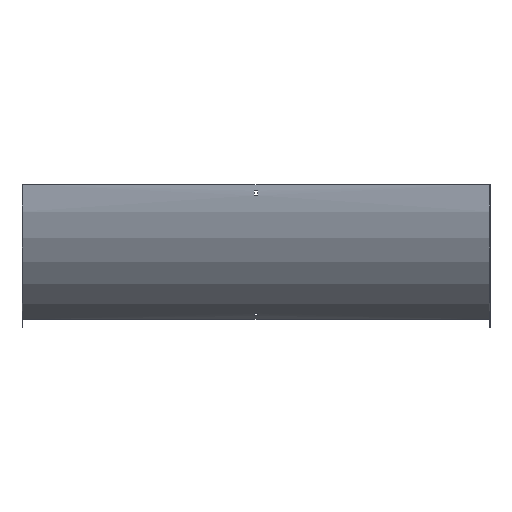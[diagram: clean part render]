
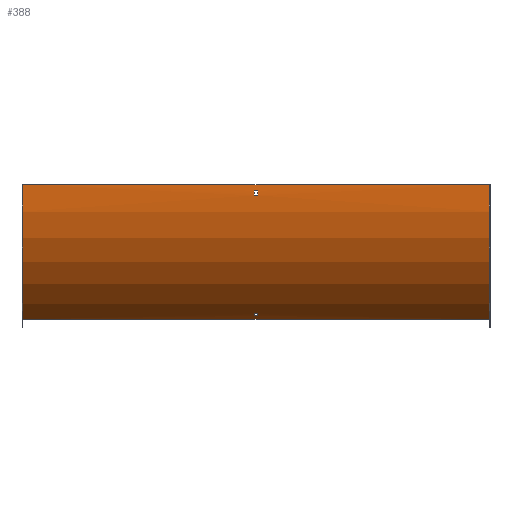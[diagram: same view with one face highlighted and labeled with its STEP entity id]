
A CAD part, front view. The second image highlights one B-rep face of the part: STEP entity #388.
In plain terms, the highlighted cylindrical face has radius 300 mm (diameter 600 mm), a partial arc.
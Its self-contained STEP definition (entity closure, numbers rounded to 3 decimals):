
#2 = CARTESIAN_POINT ( 'NONE',  ( 451.5, 138.228, -253.6 ) ) ;
#16 = VERTEX_POINT ( 'NONE', #77 ) ;
#41 = VERTEX_POINT ( 'NONE', #405 ) ;
#42 = EDGE_CURVE ( 'NONE', #401, #16, #129, .T. ) ;
#52 = EDGE_CURVE ( 'NONE', #41, #562, #464, .T. ) ;
#60 = VECTOR ( 'NONE', #566, 1000. ) ;
#61 = DIRECTION ( 'NONE',  ( -1., 0., 0. ) ) ;
#66 = CIRCLE ( 'NONE', #240, 300. ) ;
#67 = CARTESIAN_POINT ( 'NONE',  ( 451.5, -0.764, -21. ) ) ;
#69 = DIRECTION ( 'NONE',  ( 0., 0., 1. ) ) ;
#74 = CARTESIAN_POINT ( 'NONE',  ( 450., 298.5, 0. ) ) ;
#77 = CARTESIAN_POINT ( 'NONE',  ( -450., -1.5, 0. ) ) ;
#78 = DIRECTION ( 'NONE',  ( 1., 0., 0. ) ) ;
#87 = CIRCLE ( 'NONE', #281, 300. ) ;
#104 = EDGE_LOOP ( 'NONE', ( #163, #517, #241, #255 ) ) ;
#105 = CIRCLE ( 'NONE', #528, 300. ) ;
#111 = VERTEX_POINT ( 'NONE', #139 ) ;
#121 = DIRECTION ( 'NONE',  ( -1., 0., 0. ) ) ;
#122 = ORIENTED_EDGE ( 'NONE', *, *, #516, .T. ) ;
#127 = AXIS2_PLACEMENT_3D ( 'NONE', #179, #469, #182 ) ;
#129 = LINE ( 'NONE', #408, #385 ) ;
#136 = VECTOR ( 'NONE', #196, 1000. ) ;
#139 = CARTESIAN_POINT ( 'NONE',  ( 3.25, 138.228, -253.6 ) ) ;
#141 = CARTESIAN_POINT ( 'NONE',  ( -3.25, 138.228, -253.6 ) ) ;
#152 = CARTESIAN_POINT ( 'NONE',  ( 450., 148.5, -259.808 ) ) ;
#153 = ORIENTED_EDGE ( 'NONE', *, *, #221, .T. ) ;
#158 = DIRECTION ( 'NONE',  ( -1., 0., 0. ) ) ;
#163 = ORIENTED_EDGE ( 'NONE', *, *, #52, .F. ) ;
#174 = DIRECTION ( 'NONE',  ( 1., 0., 0. ) ) ;
#176 = FACE_OUTER_BOUND ( 'NONE', #300, .T. ) ;
#179 = CARTESIAN_POINT ( 'NONE',  ( 451.5, 298.5, 0. ) ) ;
#182 = DIRECTION ( 'NONE',  ( 0., 0., 1. ) ) ;
#185 = EDGE_CURVE ( 'NONE', #447, #41, #578, .T. ) ;
#193 = EDGE_LOOP ( 'NONE', ( #122, #153, #216, #377 ) ) ;
#196 = DIRECTION ( 'NONE',  ( -1., 0., 0. ) ) ;
#204 = CARTESIAN_POINT ( 'NONE',  ( -3.25, -0.764, -21. ) ) ;
#216 = ORIENTED_EDGE ( 'NONE', *, *, #294, .T. ) ;
#221 = EDGE_CURVE ( 'NONE', #423, #290, #87, .T. ) ;
#228 = VECTOR ( 'NONE', #449, 1000. ) ;
#234 = CARTESIAN_POINT ( 'NONE',  ( 3.25, 298.5, 0. ) ) ;
#239 = CARTESIAN_POINT ( 'NONE',  ( -3.25, 298.5, 0. ) ) ;
#240 = AXIS2_PLACEMENT_3D ( 'NONE', #234, #343, #433 ) ;
#241 = ORIENTED_EDGE ( 'NONE', *, *, #475, .F. ) ;
#249 = CARTESIAN_POINT ( 'NONE',  ( -450., 148.5, -259.808 ) ) ;
#250 = DIRECTION ( 'NONE',  ( 0., 1., 0. ) ) ;
#255 = ORIENTED_EDGE ( 'NONE', *, *, #518, .F. ) ;
#258 = CARTESIAN_POINT ( 'NONE',  ( -3.25, 298.5, 0. ) ) ;
#261 = CARTESIAN_POINT ( 'NONE',  ( 3.25, 130.681, -248.67 ) ) ;
#262 = DIRECTION ( 'NONE',  ( 0., 0., 1. ) ) ;
#267 = ORIENTED_EDGE ( 'NONE', *, *, #288, .T. ) ;
#276 = CARTESIAN_POINT ( 'NONE',  ( 450., -1.5, 0. ) ) ;
#281 = AXIS2_PLACEMENT_3D ( 'NONE', #239, #428, #250 ) ;
#286 = LINE ( 'NONE', #152, #481 ) ;
#288 = EDGE_CURVE ( 'NONE', #391, #401, #105, .T. ) ;
#290 = VERTEX_POINT ( 'NONE', #491 ) ;
#294 = EDGE_CURVE ( 'NONE', #290, #309, #509, .T. ) ;
#300 = EDGE_LOOP ( 'NONE', ( #593, #571, #267, #434 ) ) ;
#309 = VERTEX_POINT ( 'NONE', #261 ) ;
#312 = AXIS2_PLACEMENT_3D ( 'NONE', #359, #544, #69 ) ;
#316 = CARTESIAN_POINT ( 'NONE',  ( -450., 298.5, 0. ) ) ;
#319 = EDGE_CURVE ( 'NONE', #309, #111, #573, .T. ) ;
#343 = DIRECTION ( 'NONE',  ( -1., 0., 0. ) ) ;
#344 = EDGE_CURVE ( 'NONE', #529, #16, #438, .T. ) ;
#352 = DIRECTION ( 'NONE',  ( 0., 0., 1. ) ) ;
#359 = CARTESIAN_POINT ( 'NONE',  ( 3.25, 298.5, 0. ) ) ;
#365 = LINE ( 'NONE', #67, #386 ) ;
#367 = CARTESIAN_POINT ( 'NONE',  ( 451.5, 130.681, -248.67 ) ) ;
#373 = CYLINDRICAL_SURFACE ( 'NONE', #127, 300. ) ;
#376 = FACE_BOUND ( 'NONE', #193, .T. ) ;
#377 = ORIENTED_EDGE ( 'NONE', *, *, #319, .T. ) ;
#383 = LINE ( 'NONE', #2, #60 ) ;
#385 = VECTOR ( 'NONE', #121, 1000. ) ;
#386 = VECTOR ( 'NONE', #78, 1000. ) ;
#388 = ADVANCED_FACE ( 'NONE', ( #513, #176, #376 ), #373, .T. ) ;
#389 = CARTESIAN_POINT ( 'NONE',  ( 3.25, -0.764, -21. ) ) ;
#391 = VERTEX_POINT ( 'NONE', #606 ) ;
#394 = CARTESIAN_POINT ( 'NONE',  ( 451.5, -1.26, -12. ) ) ;
#401 = VERTEX_POINT ( 'NONE', #276 ) ;
#405 = CARTESIAN_POINT ( 'NONE',  ( -3.25, -1.26, -12. ) ) ;
#408 = CARTESIAN_POINT ( 'NONE',  ( 450., -1.5, 0. ) ) ;
#423 = VERTEX_POINT ( 'NONE', #141 ) ;
#428 = DIRECTION ( 'NONE',  ( -1., 0., 0. ) ) ;
#433 = DIRECTION ( 'NONE',  ( 0., 0., -1. ) ) ;
#434 = ORIENTED_EDGE ( 'NONE', *, *, #42, .T. ) ;
#438 = CIRCLE ( 'NONE', #492, 300. ) ;
#447 = VERTEX_POINT ( 'NONE', #478 ) ;
#449 = DIRECTION ( 'NONE',  ( 1., 0., 0. ) ) ;
#450 = VERTEX_POINT ( 'NONE', #389 ) ;
#464 = CIRCLE ( 'NONE', #542, 300. ) ;
#469 = DIRECTION ( 'NONE',  ( -1., 0., 0. ) ) ;
#475 = EDGE_CURVE ( 'NONE', #450, #447, #66, .T. ) ;
#478 = CARTESIAN_POINT ( 'NONE',  ( 3.25, -1.26, -12. ) ) ;
#481 = VECTOR ( 'NONE', #61, 1000. ) ;
#491 = CARTESIAN_POINT ( 'NONE',  ( -3.25, 130.681, -248.67 ) ) ;
#492 = AXIS2_PLACEMENT_3D ( 'NONE', #316, #158, #352 ) ;
#496 = DIRECTION ( 'NONE',  ( 0., 0., 1. ) ) ;
#499 = EDGE_CURVE ( 'NONE', #391, #529, #286, .T. ) ;
#509 = LINE ( 'NONE', #367, #228 ) ;
#513 = FACE_BOUND ( 'NONE', #104, .T. ) ;
#516 = EDGE_CURVE ( 'NONE', #111, #423, #383, .T. ) ;
#517 = ORIENTED_EDGE ( 'NONE', *, *, #185, .F. ) ;
#518 = EDGE_CURVE ( 'NONE', #562, #450, #365, .T. ) ;
#528 = AXIS2_PLACEMENT_3D ( 'NONE', #74, #589, #496 ) ;
#529 = VERTEX_POINT ( 'NONE', #249 ) ;
#542 = AXIS2_PLACEMENT_3D ( 'NONE', #258, #174, #262 ) ;
#544 = DIRECTION ( 'NONE',  ( 1., 0., 0. ) ) ;
#562 = VERTEX_POINT ( 'NONE', #204 ) ;
#566 = DIRECTION ( 'NONE',  ( -1., 0., 0. ) ) ;
#571 = ORIENTED_EDGE ( 'NONE', *, *, #499, .F. ) ;
#573 = CIRCLE ( 'NONE', #312, 300. ) ;
#578 = LINE ( 'NONE', #394, #136 ) ;
#589 = DIRECTION ( 'NONE',  ( -1., 0., 0. ) ) ;
#593 = ORIENTED_EDGE ( 'NONE', *, *, #344, .F. ) ;
#606 = CARTESIAN_POINT ( 'NONE',  ( 450., 148.5, -259.808 ) ) ;
